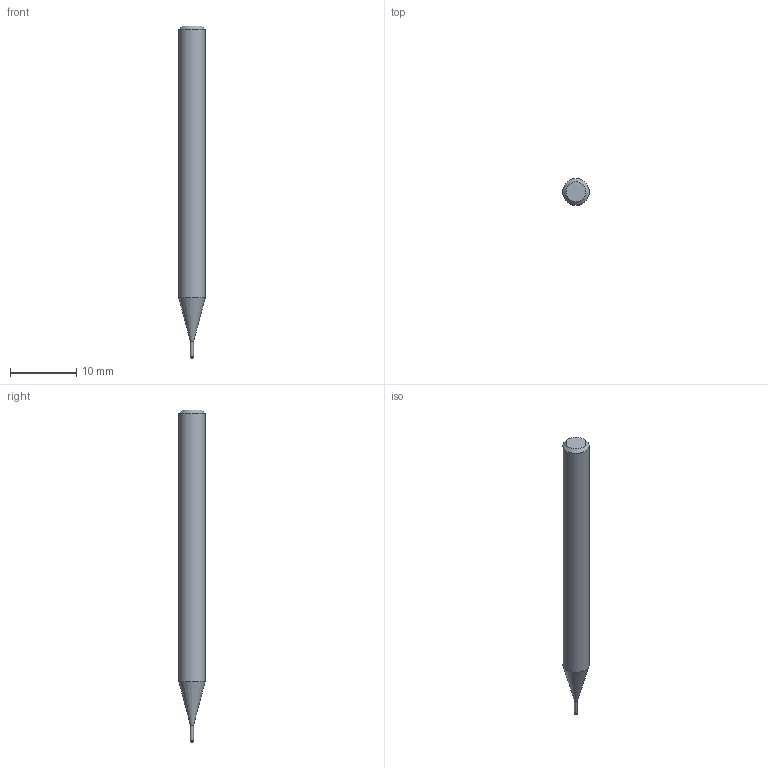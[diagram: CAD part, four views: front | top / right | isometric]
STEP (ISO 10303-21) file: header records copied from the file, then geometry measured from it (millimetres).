
FILE_DESCRIPTION((''),'2;1');
FILE_NAME('C:\Users\nsx150\AppData\Local\Temp\Mastercam 2021\LJSIDMOTM8\TEMP.step','2021-08-03T13:49:03',(''),(''),'STEP Write','Mastercam 2021 ... CNC Software, Inc.','');
FILE_SCHEMA(('AUTOMOTIVE_DESIGN'));
Length unit declared in the file: millimetre
Products named in the file (1): None
Bounding box: 4 x 4 x 50 mm (x, y, z)
Volume: 544.1 mm3; surface area: 574.5 mm2
Topology: 2 solids, 2 shells, 10 faces, 14 edges, 8 vertices
Faces by surface type: plane 4, cylinder 3, cone 2, torus 1
Full cylindrical faces by diameter (mm): 0.46 x1, 0.5 x1, 4 x1
Entity records: 232 total; most frequent: DIRECTION 40, CARTESIAN_POINT 28, AXIS2_PLACEMENT_3D 20, ORIENTED_EDGE 16, EDGE_LOOP 16, STYLED_ITEM 13, ADVANCED_FACE 10, FACE_BOUND 10
